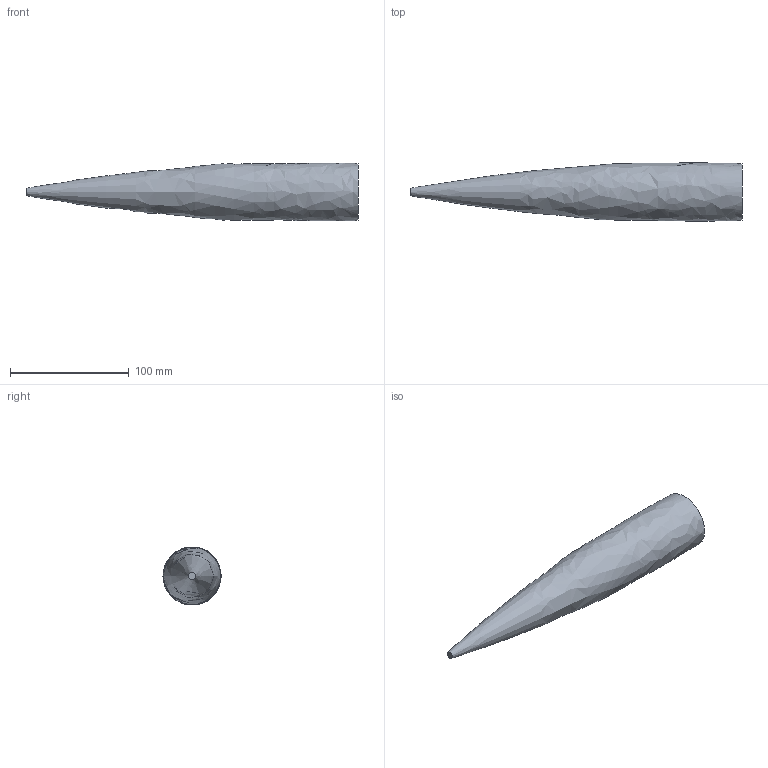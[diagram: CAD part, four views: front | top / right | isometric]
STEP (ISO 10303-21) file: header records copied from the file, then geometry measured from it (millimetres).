
FILE_DESCRIPTION((''),'2;1');
FILE_NAME('Y:\Microsonic\100436 Sensoren\Garantie\G2_Daten\050823_Austauschformate\STP\Schallfeld Betriebstastw 150mm Platte.stp','2005-08-23T14:51:12',('ohle'),(''),'Autodesk Inventor 7','Autodesk Inventor 7','');
FILE_SCHEMA(('AUTOMOTIVE_DESIGN { 1 0 10303 214 1 1 1 1 }'));
Length unit declared in the file: millimetre
Products named in the file (1): Schallfeld Betriebstastw 150mm Platte
Bounding box: 280 x 49.22 x 48.9 mm (x, y, z)
Volume: 340792 mm3; surface area: 34620.4 mm2
Topology: 1 solids, 1 shells, 3 faces, 3 edges, 2 vertices
Faces by surface type: plane 2, bspline 1
Entity records: 204 total; most frequent: CARTESIAN_POINT 137, DIRECTION 10, ORIENTED_EDGE 6, AXIS2_PLACEMENT_3D 5, EDGE_CURVE 3, EDGE_LOOP 3, FACE_OUTER_BOUND 3, ADVANCED_FACE 3
